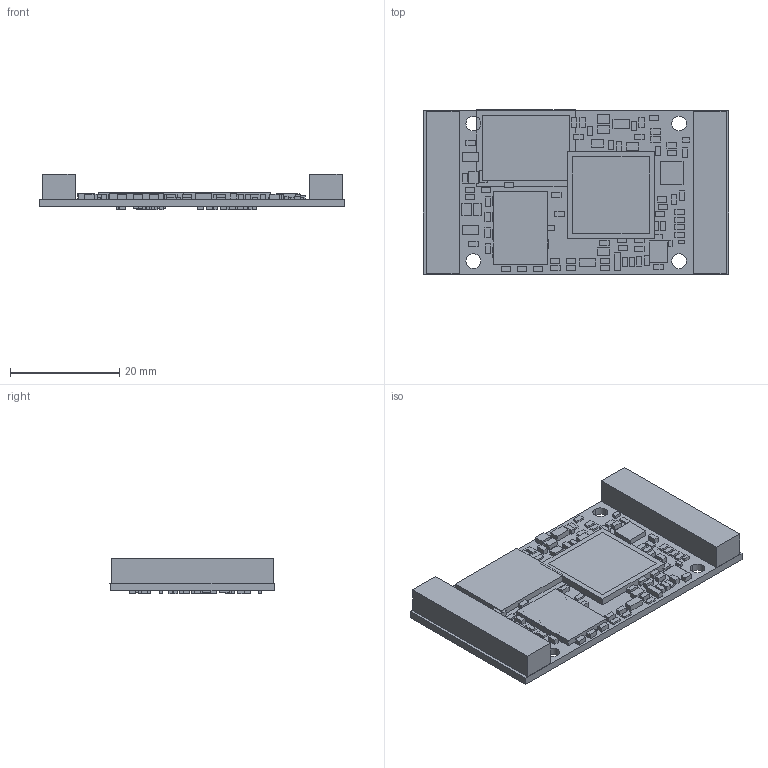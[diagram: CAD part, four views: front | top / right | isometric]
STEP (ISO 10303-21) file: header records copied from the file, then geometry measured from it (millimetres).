
FILE_DESCRIPTION(('STEP AP214'),'1');
FILE_NAME('sk_imx6ull_mod.step','2018-03-19T06:44:41',(' '),(' '),'Spatial InterOp 3D',' ',' ');
FILE_SCHEMA(('automotive_design'));
Length unit declared in the file: millimetre
Products named in the file (6): 1; 2; 3; 4; 5; 6
Bounding box: 56 x 30.15 x 6.57 mm (x, y, z)
Volume: 5111 mm3; surface area: 6723.1 mm2
Topology: 6 solids, 6 shells, 696 faces, 1656 edges, 1104 vertices
Faces by surface type: plane 680, cylinder 16
Entity records: 25415 total; most frequent: CARTESIAN_POINT 3462, ORIENTED_EDGE 3312, DIRECTION 3092, EDGE_CURVE 1656, LINE 1624, VECTOR 1624, VERTEX_POINT 1104, EDGE_LOOP 836
